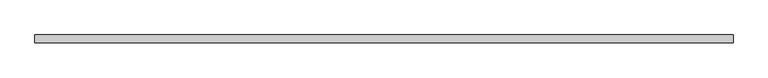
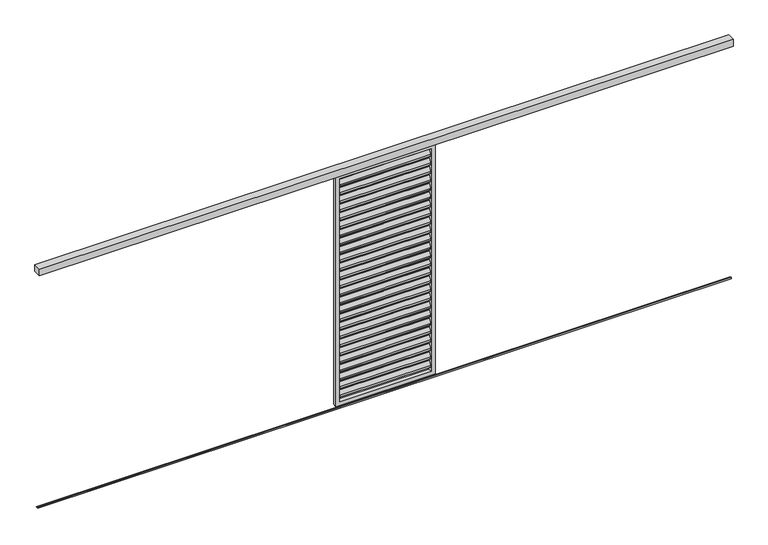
"""IFC4 building model written with IfcOpenShell, lengths in millimetres: proxy geometry, Renson_Amani_Loggia_Paro_Aluminium_Sliding : Renson_Amani_Loggia_Paro_Aluminium_Sliding."""

from ifc_helpers import new_model, si_unit, point, frame, frame_2d, origin, place, context, project, spatial, polyline, circle_curve, trimmed, segment, composite_curve, outline, extrude, source, transform, mapped, element, save


def generic_models_8391a76d(model_context):
    return source(origin(), model_context, "Body", "SweptSolid", [
        extrude(outline(polyline([(3500.0, 46.0), (3500.0, -34.0), (-3500.0, -34.0), (-3500.0, 46.0), (3500.0, 46.0)])), frame((0.0, 0.0, 2500.0), z_axis=(0.0, 0.0, 1.0), x_axis=(1.0, 0.0, 0.0)), (0.0, 0.0, 1.0), 70.0),
        extrude(outline(composite_curve([segment(trimmed(circle_curve(frame_2d((12.6675921, 2432.6587719)), 3.0), [point((10.1515804, 2434.292689))], [point((15.6675921, 2432.6587719))], False, "CARTESIAN"), True, "CONTINUOUS"), segment(polyline([(15.6675921, 2432.6587719), (15.6675921, 2414.2979873)]), True, "CONTINUOUS"), segment(trimmed(circle_curve(frame_2d((12.6675921, 2414.2979873)), 3.0), [point((15.6675921, 2414.2979873))], [point((15.1836038, 2412.6640702))], False, "CARTESIAN"), True, "CONTINUOUS"), segment(polyline([(15.1836038, 2412.6640702), (-8.8163962, 2375.707311)]), True, "CONTINUOUS"), segment(trimmed(circle_curve(frame_2d((-11.3324079, 2377.3412281)), 3.0), [point((-8.8163962, 2375.707311))], [point((-14.3324079, 2377.3412281))], False, "CARTESIAN"), True, "CONTINUOUS"), segment(polyline([(-14.3324079, 2377.3412281), (-14.3324079, 2396.5906532), (10.1515804, 2434.292689)]), True, "CONTINUOUS")], self_intersect=False)), frame((-460.0, 0.0, 0.0), z_axis=(1.0, 0.0, 0.0), x_axis=(0.0, 1.0, 0.0)), (0.0, 0.0, 1.0), 920.0),
        extrude(outline(composite_curve([segment(trimmed(circle_curve(frame_2d((12.6675921, 2342.6587719)), 3.0), [point((10.1515804, 2344.292689))], [point((15.6675921, 2342.6587719))], False, "CARTESIAN"), True, "CONTINUOUS"), segment(polyline([(15.6675921, 2342.6587719), (15.6675921, 2324.2979873)]), True, "CONTINUOUS"), segment(trimmed(circle_curve(frame_2d((12.6675921, 2324.2979873)), 3.0), [point((15.6675921, 2324.2979873))], [point((15.1836038, 2322.6640702))], False, "CARTESIAN"), True, "CONTINUOUS"), segment(polyline([(15.1836038, 2322.6640702), (-8.8163962, 2285.707311)]), True, "CONTINUOUS"), segment(trimmed(circle_curve(frame_2d((-11.3324079, 2287.3412281)), 3.0), [point((-8.8163962, 2285.707311))], [point((-14.3324079, 2287.3412281))], False, "CARTESIAN"), True, "CONTINUOUS"), segment(polyline([(-14.3324079, 2287.3412281), (-14.3324079, 2306.5906532), (10.1515804, 2344.292689)]), True, "CONTINUOUS")], self_intersect=False)), frame((-460.0, 0.0, 0.0), z_axis=(1.0, 0.0, 0.0), x_axis=(0.0, 1.0, 0.0)), (0.0, 0.0, 1.0), 920.0),
        extrude(outline(composite_curve([segment(trimmed(circle_curve(frame_2d((12.6675921, 2252.6587719)), 3.0), [point((10.1515804, 2254.292689))], [point((15.6675921, 2252.6587719))], False, "CARTESIAN"), True, "CONTINUOUS"), segment(polyline([(15.6675921, 2252.6587719), (15.6675921, 2234.2979873)]), True, "CONTINUOUS"), segment(trimmed(circle_curve(frame_2d((12.6675921, 2234.2979873)), 3.0), [point((15.6675921, 2234.2979873))], [point((15.1836038, 2232.6640702))], False, "CARTESIAN"), True, "CONTINUOUS"), segment(polyline([(15.1836038, 2232.6640702), (-8.8163962, 2195.707311)]), True, "CONTINUOUS"), segment(trimmed(circle_curve(frame_2d((-11.3324079, 2197.3412281)), 3.0), [point((-8.8163962, 2195.707311))], [point((-14.3324079, 2197.3412281))], False, "CARTESIAN"), True, "CONTINUOUS"), segment(polyline([(-14.3324079, 2197.3412281), (-14.3324079, 2216.5906532), (10.1515804, 2254.292689)]), True, "CONTINUOUS")], self_intersect=False)), frame((-460.0, 0.0, 0.0), z_axis=(1.0, 0.0, 0.0), x_axis=(0.0, 1.0, 0.0)), (0.0, 0.0, 1.0), 920.0),
        extrude(outline(composite_curve([segment(trimmed(circle_curve(frame_2d((12.6675921, 2162.6587719)), 3.0), [point((10.1515804, 2164.292689))], [point((15.6675921, 2162.6587719))], False, "CARTESIAN"), True, "CONTINUOUS"), segment(polyline([(15.6675921, 2162.6587719), (15.6675921, 2144.2979873)]), True, "CONTINUOUS"), segment(trimmed(circle_curve(frame_2d((12.6675921, 2144.2979873)), 3.0), [point((15.6675921, 2144.2979873))], [point((15.1836038, 2142.6640702))], False, "CARTESIAN"), True, "CONTINUOUS"), segment(polyline([(15.1836038, 2142.6640702), (-8.8163962, 2105.707311)]), True, "CONTINUOUS"), segment(trimmed(circle_curve(frame_2d((-11.3324079, 2107.3412281)), 3.0), [point((-8.8163962, 2105.707311))], [point((-14.3324079, 2107.3412281))], False, "CARTESIAN"), True, "CONTINUOUS"), segment(polyline([(-14.3324079, 2107.3412281), (-14.3324079, 2126.5906532), (10.1515804, 2164.292689)]), True, "CONTINUOUS")], self_intersect=False)), frame((-460.0, 0.0, 0.0), z_axis=(1.0, 0.0, 0.0), x_axis=(0.0, 1.0, 0.0)), (0.0, 0.0, 1.0), 920.0),
        extrude(outline(composite_curve([segment(trimmed(circle_curve(frame_2d((12.6675921, 2072.6587719)), 3.0), [point((10.1515804, 2074.292689))], [point((15.6675921, 2072.6587719))], False, "CARTESIAN"), True, "CONTINUOUS"), segment(polyline([(15.6675921, 2072.6587719), (15.6675921, 2054.2979873)]), True, "CONTINUOUS"), segment(trimmed(circle_curve(frame_2d((12.6675921, 2054.2979873)), 3.0), [point((15.6675921, 2054.2979873))], [point((15.1836038, 2052.6640702))], False, "CARTESIAN"), True, "CONTINUOUS"), segment(polyline([(15.1836038, 2052.6640702), (-8.8163962, 2015.707311)]), True, "CONTINUOUS"), segment(trimmed(circle_curve(frame_2d((-11.3324079, 2017.3412281)), 3.0), [point((-8.8163962, 2015.707311))], [point((-14.3324079, 2017.3412281))], False, "CARTESIAN"), True, "CONTINUOUS"), segment(polyline([(-14.3324079, 2017.3412281), (-14.3324079, 2036.5906532), (10.1515804, 2074.292689)]), True, "CONTINUOUS")], self_intersect=False)), frame((-460.0, 0.0, 0.0), z_axis=(1.0, 0.0, 0.0), x_axis=(0.0, 1.0, 0.0)), (0.0, 0.0, 1.0), 920.0),
        extrude(outline(composite_curve([segment(trimmed(circle_curve(frame_2d((12.6675921, 1982.6587719)), 3.0), [point((10.1515804, 1984.292689))], [point((15.6675921, 1982.6587719))], False, "CARTESIAN"), True, "CONTINUOUS"), segment(polyline([(15.6675921, 1982.6587719), (15.6675921, 1964.2979873)]), True, "CONTINUOUS"), segment(trimmed(circle_curve(frame_2d((12.6675921, 1964.2979873)), 3.0), [point((15.6675921, 1964.2979873))], [point((15.1836038, 1962.6640702))], False, "CARTESIAN"), True, "CONTINUOUS"), segment(polyline([(15.1836038, 1962.6640702), (-8.8163962, 1925.707311)]), True, "CONTINUOUS"), segment(trimmed(circle_curve(frame_2d((-11.3324079, 1927.3412281)), 3.0), [point((-8.8163962, 1925.707311))], [point((-14.3324079, 1927.3412281))], False, "CARTESIAN"), True, "CONTINUOUS"), segment(polyline([(-14.3324079, 1927.3412281), (-14.3324079, 1946.5906532), (10.1515804, 1984.292689)]), True, "CONTINUOUS")], self_intersect=False)), frame((-460.0, 0.0, 0.0), z_axis=(1.0, 0.0, 0.0), x_axis=(0.0, 1.0, 0.0)), (0.0, 0.0, 1.0), 920.0),
        extrude(outline(composite_curve([segment(trimmed(circle_curve(frame_2d((12.6675921, 1892.6587719)), 3.0), [point((10.1515804, 1894.292689))], [point((15.6675921, 1892.6587719))], False, "CARTESIAN"), True, "CONTINUOUS"), segment(polyline([(15.6675921, 1892.6587719), (15.6675921, 1874.2979873)]), True, "CONTINUOUS"), segment(trimmed(circle_curve(frame_2d((12.6675921, 1874.2979873)), 3.0), [point((15.6675921, 1874.2979873))], [point((15.1836038, 1872.6640702))], False, "CARTESIAN"), True, "CONTINUOUS"), segment(polyline([(15.1836038, 1872.6640702), (-8.8163962, 1835.707311)]), True, "CONTINUOUS"), segment(trimmed(circle_curve(frame_2d((-11.3324079, 1837.3412281)), 3.0), [point((-8.8163962, 1835.707311))], [point((-14.3324079, 1837.3412281))], False, "CARTESIAN"), True, "CONTINUOUS"), segment(polyline([(-14.3324079, 1837.3412281), (-14.3324079, 1856.5906532), (10.1515804, 1894.292689)]), True, "CONTINUOUS")], self_intersect=False)), frame((-460.0, 0.0, 0.0), z_axis=(1.0, 0.0, 0.0), x_axis=(0.0, 1.0, 0.0)), (0.0, 0.0, 1.0), 920.0),
        extrude(outline(composite_curve([segment(trimmed(circle_curve(frame_2d((12.6675921, 1802.6587719)), 3.0), [point((10.1515804, 1804.292689))], [point((15.6675921, 1802.6587719))], False, "CARTESIAN"), True, "CONTINUOUS"), segment(polyline([(15.6675921, 1802.6587719), (15.6675921, 1784.2979873)]), True, "CONTINUOUS"), segment(trimmed(circle_curve(frame_2d((12.6675921, 1784.2979873)), 3.0), [point((15.6675921, 1784.2979873))], [point((15.1836038, 1782.6640702))], False, "CARTESIAN"), True, "CONTINUOUS"), segment(polyline([(15.1836038, 1782.6640702), (-8.8163962, 1745.707311)]), True, "CONTINUOUS"), segment(trimmed(circle_curve(frame_2d((-11.3324079, 1747.3412281)), 3.0), [point((-8.8163962, 1745.707311))], [point((-14.3324079, 1747.3412281))], False, "CARTESIAN"), True, "CONTINUOUS"), segment(polyline([(-14.3324079, 1747.3412281), (-14.3324079, 1766.5906532), (10.1515804, 1804.292689)]), True, "CONTINUOUS")], self_intersect=False)), frame((-460.0, 0.0, 0.0), z_axis=(1.0, 0.0, 0.0), x_axis=(0.0, 1.0, 0.0)), (0.0, 0.0, 1.0), 920.0),
        extrude(outline(composite_curve([segment(trimmed(circle_curve(frame_2d((12.6675921, 1712.6587719)), 3.0), [point((10.1515804, 1714.292689))], [point((15.6675921, 1712.6587719))], False, "CARTESIAN"), True, "CONTINUOUS"), segment(polyline([(15.6675921, 1712.6587719), (15.6675921, 1694.2979873)]), True, "CONTINUOUS"), segment(trimmed(circle_curve(frame_2d((12.6675921, 1694.2979873)), 3.0), [point((15.6675921, 1694.2979873))], [point((15.1836038, 1692.6640702))], False, "CARTESIAN"), True, "CONTINUOUS"), segment(polyline([(15.1836038, 1692.6640702), (-8.8163962, 1655.707311)]), True, "CONTINUOUS"), segment(trimmed(circle_curve(frame_2d((-11.3324079, 1657.3412281)), 3.0), [point((-8.8163962, 1655.707311))], [point((-14.3324079, 1657.3412281))], False, "CARTESIAN"), True, "CONTINUOUS"), segment(polyline([(-14.3324079, 1657.3412281), (-14.3324079, 1676.5906532), (10.1515804, 1714.292689)]), True, "CONTINUOUS")], self_intersect=False)), frame((-460.0, 0.0, 0.0), z_axis=(1.0, 0.0, 0.0), x_axis=(0.0, 1.0, 0.0)), (0.0, 0.0, 1.0), 920.0),
        extrude(outline(composite_curve([segment(trimmed(circle_curve(frame_2d((12.6675921, 1622.6587719)), 3.0), [point((10.1515804, 1624.292689))], [point((15.6675921, 1622.6587719))], False, "CARTESIAN"), True, "CONTINUOUS"), segment(polyline([(15.6675921, 1622.6587719), (15.6675921, 1604.2979873)]), True, "CONTINUOUS"), segment(trimmed(circle_curve(frame_2d((12.6675921, 1604.2979873)), 3.0), [point((15.6675921, 1604.2979873))], [point((15.1836038, 1602.6640702))], False, "CARTESIAN"), True, "CONTINUOUS"), segment(polyline([(15.1836038, 1602.6640702), (-8.8163962, 1565.707311)]), True, "CONTINUOUS"), segment(trimmed(circle_curve(frame_2d((-11.3324079, 1567.3412281)), 3.0), [point((-8.8163962, 1565.707311))], [point((-14.3324079, 1567.3412281))], False, "CARTESIAN"), True, "CONTINUOUS"), segment(polyline([(-14.3324079, 1567.3412281), (-14.3324079, 1586.5906532), (10.1515804, 1624.292689)]), True, "CONTINUOUS")], self_intersect=False)), frame((-460.0, 0.0, 0.0), z_axis=(1.0, 0.0, 0.0), x_axis=(0.0, 1.0, 0.0)), (0.0, 0.0, 1.0), 920.0),
        extrude(outline(composite_curve([segment(trimmed(circle_curve(frame_2d((12.6675921, 1532.6587719)), 3.0), [point((10.1515804, 1534.292689))], [point((15.6675921, 1532.6587719))], False, "CARTESIAN"), True, "CONTINUOUS"), segment(polyline([(15.6675921, 1532.6587719), (15.6675921, 1514.2979873)]), True, "CONTINUOUS"), segment(trimmed(circle_curve(frame_2d((12.6675921, 1514.2979873)), 3.0), [point((15.6675921, 1514.2979873))], [point((15.1836038, 1512.6640702))], False, "CARTESIAN"), True, "CONTINUOUS"), segment(polyline([(15.1836038, 1512.6640702), (-8.8163962, 1475.707311)]), True, "CONTINUOUS"), segment(trimmed(circle_curve(frame_2d((-11.3324079, 1477.3412281)), 3.0), [point((-8.8163962, 1475.707311))], [point((-14.3324079, 1477.3412281))], False, "CARTESIAN"), True, "CONTINUOUS"), segment(polyline([(-14.3324079, 1477.3412281), (-14.3324079, 1496.5906532), (10.1515804, 1534.292689)]), True, "CONTINUOUS")], self_intersect=False)), frame((-460.0, 0.0, 0.0), z_axis=(1.0, 0.0, 0.0), x_axis=(0.0, 1.0, 0.0)), (0.0, 0.0, 1.0), 920.0),
        extrude(outline(composite_curve([segment(trimmed(circle_curve(frame_2d((12.6675921, 1442.6587719)), 3.0), [point((10.1515804, 1444.292689))], [point((15.6675921, 1442.6587719))], False, "CARTESIAN"), True, "CONTINUOUS"), segment(polyline([(15.6675921, 1442.6587719), (15.6675921, 1424.2979873)]), True, "CONTINUOUS"), segment(trimmed(circle_curve(frame_2d((12.6675921, 1424.2979873)), 3.0), [point((15.6675921, 1424.2979873))], [point((15.1836038, 1422.6640702))], False, "CARTESIAN"), True, "CONTINUOUS"), segment(polyline([(15.1836038, 1422.6640702), (-8.8163962, 1385.707311)]), True, "CONTINUOUS"), segment(trimmed(circle_curve(frame_2d((-11.3324079, 1387.3412281)), 3.0), [point((-8.8163962, 1385.707311))], [point((-14.3324079, 1387.3412281))], False, "CARTESIAN"), True, "CONTINUOUS"), segment(polyline([(-14.3324079, 1387.3412281), (-14.3324079, 1406.5906532), (10.1515804, 1444.292689)]), True, "CONTINUOUS")], self_intersect=False)), frame((-460.0, 0.0, 0.0), z_axis=(1.0, 0.0, 0.0), x_axis=(0.0, 1.0, 0.0)), (0.0, 0.0, 1.0), 920.0),
        extrude(outline(composite_curve([segment(trimmed(circle_curve(frame_2d((12.6675921, 1352.6587719)), 3.0), [point((10.1515804, 1354.292689))], [point((15.6675921, 1352.6587719))], False, "CARTESIAN"), True, "CONTINUOUS"), segment(polyline([(15.6675921, 1352.6587719), (15.6675921, 1334.2979873)]), True, "CONTINUOUS"), segment(trimmed(circle_curve(frame_2d((12.6675921, 1334.2979873)), 3.0), [point((15.6675921, 1334.2979873))], [point((15.1836038, 1332.6640702))], False, "CARTESIAN"), True, "CONTINUOUS"), segment(polyline([(15.1836038, 1332.6640702), (-8.8163962, 1295.707311)]), True, "CONTINUOUS"), segment(trimmed(circle_curve(frame_2d((-11.3324079, 1297.3412281)), 3.0), [point((-8.8163962, 1295.707311))], [point((-14.3324079, 1297.3412281))], False, "CARTESIAN"), True, "CONTINUOUS"), segment(polyline([(-14.3324079, 1297.3412281), (-14.3324079, 1316.5906532), (10.1515804, 1354.292689)]), True, "CONTINUOUS")], self_intersect=False)), frame((-460.0, 0.0, 0.0), z_axis=(1.0, 0.0, 0.0), x_axis=(0.0, 1.0, 0.0)), (0.0, 0.0, 1.0), 920.0),
        extrude(outline(composite_curve([segment(trimmed(circle_curve(frame_2d((12.6675921, 1262.6587719)), 3.0), [point((10.1515804, 1264.292689))], [point((15.6675921, 1262.6587719))], False, "CARTESIAN"), True, "CONTINUOUS"), segment(polyline([(15.6675921, 1262.6587719), (15.6675921, 1244.2979873)]), True, "CONTINUOUS"), segment(trimmed(circle_curve(frame_2d((12.6675921, 1244.2979873)), 3.0), [point((15.6675921, 1244.2979873))], [point((15.1836038, 1242.6640702))], False, "CARTESIAN"), True, "CONTINUOUS"), segment(polyline([(15.1836038, 1242.6640702), (-8.8163962, 1205.707311)]), True, "CONTINUOUS"), segment(trimmed(circle_curve(frame_2d((-11.3324079, 1207.3412281)), 3.0), [point((-8.8163962, 1205.707311))], [point((-14.3324079, 1207.3412281))], False, "CARTESIAN"), True, "CONTINUOUS"), segment(polyline([(-14.3324079, 1207.3412281), (-14.3324079, 1226.5906532), (10.1515804, 1264.292689)]), True, "CONTINUOUS")], self_intersect=False)), frame((-460.0, 0.0, 0.0), z_axis=(1.0, 0.0, 0.0), x_axis=(0.0, 1.0, 0.0)), (0.0, 0.0, 1.0), 920.0),
        extrude(outline(composite_curve([segment(trimmed(circle_curve(frame_2d((12.6675921, 1172.6587719)), 3.0), [point((10.1515804, 1174.292689))], [point((15.6675921, 1172.6587719))], False, "CARTESIAN"), True, "CONTINUOUS"), segment(polyline([(15.6675921, 1172.6587719), (15.6675921, 1154.2979873)]), True, "CONTINUOUS"), segment(trimmed(circle_curve(frame_2d((12.6675921, 1154.2979873)), 3.0), [point((15.6675921, 1154.2979873))], [point((15.1836038, 1152.6640702))], False, "CARTESIAN"), True, "CONTINUOUS"), segment(polyline([(15.1836038, 1152.6640702), (-8.8163962, 1115.707311)]), True, "CONTINUOUS"), segment(trimmed(circle_curve(frame_2d((-11.3324079, 1117.3412281)), 3.0), [point((-8.8163962, 1115.707311))], [point((-14.3324079, 1117.3412281))], False, "CARTESIAN"), True, "CONTINUOUS"), segment(polyline([(-14.3324079, 1117.3412281), (-14.3324079, 1136.5906532), (10.1515804, 1174.292689)]), True, "CONTINUOUS")], self_intersect=False)), frame((-460.0, 0.0, 0.0), z_axis=(1.0, 0.0, 0.0), x_axis=(0.0, 1.0, 0.0)), (0.0, 0.0, 1.0), 920.0),
        extrude(outline(composite_curve([segment(trimmed(circle_curve(frame_2d((12.6675921, 1082.6587719)), 3.0), [point((10.1515804, 1084.292689))], [point((15.6675921, 1082.6587719))], False, "CARTESIAN"), True, "CONTINUOUS"), segment(polyline([(15.6675921, 1082.6587719), (15.6675921, 1064.2979873)]), True, "CONTINUOUS"), segment(trimmed(circle_curve(frame_2d((12.6675921, 1064.2979873)), 3.0), [point((15.6675921, 1064.2979873))], [point((15.1836038, 1062.6640702))], False, "CARTESIAN"), True, "CONTINUOUS"), segment(polyline([(15.1836038, 1062.6640702), (-8.8163962, 1025.707311)]), True, "CONTINUOUS"), segment(trimmed(circle_curve(frame_2d((-11.3324079, 1027.3412281)), 3.0), [point((-8.8163962, 1025.707311))], [point((-14.3324079, 1027.3412281))], False, "CARTESIAN"), True, "CONTINUOUS"), segment(polyline([(-14.3324079, 1027.3412281), (-14.3324079, 1046.5906532), (10.1515804, 1084.292689)]), True, "CONTINUOUS")], self_intersect=False)), frame((-460.0, 0.0, 0.0), z_axis=(1.0, 0.0, 0.0), x_axis=(0.0, 1.0, 0.0)), (0.0, 0.0, 1.0), 920.0),
        extrude(outline(composite_curve([segment(trimmed(circle_curve(frame_2d((12.6675921, 992.6587719)), 3.0), [point((10.1515804, 994.292689))], [point((15.6675921, 992.6587719))], False, "CARTESIAN"), True, "CONTINUOUS"), segment(polyline([(15.6675921, 992.6587719), (15.6675921, 974.2979873)]), True, "CONTINUOUS"), segment(trimmed(circle_curve(frame_2d((12.6675921, 974.2979873)), 3.0), [point((15.6675921, 974.2979873))], [point((15.1836038, 972.6640702))], False, "CARTESIAN"), True, "CONTINUOUS"), segment(polyline([(15.1836038, 972.6640702), (-8.8163962, 935.707311)]), True, "CONTINUOUS"), segment(trimmed(circle_curve(frame_2d((-11.3324079, 937.3412281)), 3.0), [point((-8.8163962, 935.707311))], [point((-14.3324079, 937.3412281))], False, "CARTESIAN"), True, "CONTINUOUS"), segment(polyline([(-14.3324079, 937.3412281), (-14.3324079, 956.5906532), (10.1515804, 994.292689)]), True, "CONTINUOUS")], self_intersect=False)), frame((-460.0, 0.0, 0.0), z_axis=(1.0, 0.0, 0.0), x_axis=(0.0, 1.0, 0.0)), (0.0, 0.0, 1.0), 920.0),
        extrude(outline(composite_curve([segment(trimmed(circle_curve(frame_2d((12.6675921, 902.6587719)), 3.0), [point((10.1515804, 904.292689))], [point((15.6675921, 902.6587719))], False, "CARTESIAN"), True, "CONTINUOUS"), segment(polyline([(15.6675921, 902.6587719), (15.6675921, 884.2979873)]), True, "CONTINUOUS"), segment(trimmed(circle_curve(frame_2d((12.6675921, 884.2979873)), 3.0), [point((15.6675921, 884.2979873))], [point((15.1836038, 882.6640702))], False, "CARTESIAN"), True, "CONTINUOUS"), segment(polyline([(15.1836038, 882.6640702), (-8.8163962, 845.707311)]), True, "CONTINUOUS"), segment(trimmed(circle_curve(frame_2d((-11.3324079, 847.3412281)), 3.0), [point((-8.8163962, 845.707311))], [point((-14.3324079, 847.3412281))], False, "CARTESIAN"), True, "CONTINUOUS"), segment(polyline([(-14.3324079, 847.3412281), (-14.3324079, 866.5906532), (10.1515804, 904.292689)]), True, "CONTINUOUS")], self_intersect=False)), frame((-460.0, 0.0, 0.0), z_axis=(1.0, 0.0, 0.0), x_axis=(0.0, 1.0, 0.0)), (0.0, 0.0, 1.0), 920.0),
        extrude(outline(composite_curve([segment(trimmed(circle_curve(frame_2d((12.6675921, 812.6587719)), 3.0), [point((10.1515804, 814.292689))], [point((15.6675921, 812.6587719))], False, "CARTESIAN"), True, "CONTINUOUS"), segment(polyline([(15.6675921, 812.6587719), (15.6675921, 794.2979873)]), True, "CONTINUOUS"), segment(trimmed(circle_curve(frame_2d((12.6675921, 794.2979873)), 3.0), [point((15.6675921, 794.2979873))], [point((15.1836038, 792.6640702))], False, "CARTESIAN"), True, "CONTINUOUS"), segment(polyline([(15.1836038, 792.6640702), (-8.8163962, 755.707311)]), True, "CONTINUOUS"), segment(trimmed(circle_curve(frame_2d((-11.3324079, 757.3412281)), 3.0), [point((-8.8163962, 755.707311))], [point((-14.3324079, 757.3412281))], False, "CARTESIAN"), True, "CONTINUOUS"), segment(polyline([(-14.3324079, 757.3412281), (-14.3324079, 776.5906532), (10.1515804, 814.292689)]), True, "CONTINUOUS")], self_intersect=False)), frame((-460.0, 0.0, 0.0), z_axis=(1.0, 0.0, 0.0), x_axis=(0.0, 1.0, 0.0)), (0.0, 0.0, 1.0), 920.0),
        extrude(outline(composite_curve([segment(trimmed(circle_curve(frame_2d((12.6675921, 722.6587719)), 3.0), [point((10.1515804, 724.292689))], [point((15.6675921, 722.6587719))], False, "CARTESIAN"), True, "CONTINUOUS"), segment(polyline([(15.6675921, 722.6587719), (15.6675921, 704.2979873)]), True, "CONTINUOUS"), segment(trimmed(circle_curve(frame_2d((12.6675921, 704.2979873)), 3.0), [point((15.6675921, 704.2979873))], [point((15.1836038, 702.6640702))], False, "CARTESIAN"), True, "CONTINUOUS"), segment(polyline([(15.1836038, 702.6640702), (-8.8163962, 665.707311)]), True, "CONTINUOUS"), segment(trimmed(circle_curve(frame_2d((-11.3324079, 667.3412281)), 3.0), [point((-8.8163962, 665.707311))], [point((-14.3324079, 667.3412281))], False, "CARTESIAN"), True, "CONTINUOUS"), segment(polyline([(-14.3324079, 667.3412281), (-14.3324079, 686.5906532), (10.1515804, 724.292689)]), True, "CONTINUOUS")], self_intersect=False)), frame((-460.0, 0.0, 0.0), z_axis=(1.0, 0.0, 0.0), x_axis=(0.0, 1.0, 0.0)), (0.0, 0.0, 1.0), 920.0),
        extrude(outline(composite_curve([segment(trimmed(circle_curve(frame_2d((12.6675921, 632.6587719)), 3.0), [point((10.1515804, 634.292689))], [point((15.6675921, 632.6587719))], False, "CARTESIAN"), True, "CONTINUOUS"), segment(polyline([(15.6675921, 632.6587719), (15.6675921, 614.2979873)]), True, "CONTINUOUS"), segment(trimmed(circle_curve(frame_2d((12.6675921, 614.2979873)), 3.0), [point((15.6675921, 614.2979873))], [point((15.1836038, 612.6640702))], False, "CARTESIAN"), True, "CONTINUOUS"), segment(polyline([(15.1836038, 612.6640702), (-8.8163962, 575.707311)]), True, "CONTINUOUS"), segment(trimmed(circle_curve(frame_2d((-11.3324079, 577.3412281)), 3.0), [point((-8.8163962, 575.707311))], [point((-14.3324079, 577.3412281))], False, "CARTESIAN"), True, "CONTINUOUS"), segment(polyline([(-14.3324079, 577.3412281), (-14.3324079, 596.5906532), (10.1515804, 634.292689)]), True, "CONTINUOUS")], self_intersect=False)), frame((-460.0, 0.0, 0.0), z_axis=(1.0, 0.0, 0.0), x_axis=(0.0, 1.0, 0.0)), (0.0, 0.0, 1.0), 920.0),
        extrude(outline(composite_curve([segment(trimmed(circle_curve(frame_2d((12.6675921, 542.6587719)), 3.0), [point((10.1515804, 544.292689))], [point((15.6675921, 542.6587719))], False, "CARTESIAN"), True, "CONTINUOUS"), segment(polyline([(15.6675921, 542.6587719), (15.6675921, 524.2979873)]), True, "CONTINUOUS"), segment(trimmed(circle_curve(frame_2d((12.6675921, 524.2979873)), 3.0), [point((15.6675921, 524.2979873))], [point((15.1836038, 522.6640702))], False, "CARTESIAN"), True, "CONTINUOUS"), segment(polyline([(15.1836038, 522.6640702), (-8.8163962, 485.707311)]), True, "CONTINUOUS"), segment(trimmed(circle_curve(frame_2d((-11.3324079, 487.3412281)), 3.0), [point((-8.8163962, 485.707311))], [point((-14.3324079, 487.3412281))], False, "CARTESIAN"), True, "CONTINUOUS"), segment(polyline([(-14.3324079, 487.3412281), (-14.3324079, 506.5906532), (10.1515804, 544.292689)]), True, "CONTINUOUS")], self_intersect=False)), frame((-460.0, 0.0, 0.0), z_axis=(1.0, 0.0, 0.0), x_axis=(0.0, 1.0, 0.0)), (0.0, 0.0, 1.0), 920.0),
        extrude(outline(composite_curve([segment(trimmed(circle_curve(frame_2d((12.6675921, 452.6587719)), 3.0), [point((10.1515804, 454.292689))], [point((15.6675921, 452.6587719))], False, "CARTESIAN"), True, "CONTINUOUS"), segment(polyline([(15.6675921, 452.6587719), (15.6675921, 434.2979873)]), True, "CONTINUOUS"), segment(trimmed(circle_curve(frame_2d((12.6675921, 434.2979873)), 3.0), [point((15.6675921, 434.2979873))], [point((15.1836038, 432.6640702))], False, "CARTESIAN"), True, "CONTINUOUS"), segment(polyline([(15.1836038, 432.6640702), (-8.8163962, 395.707311)]), True, "CONTINUOUS"), segment(trimmed(circle_curve(frame_2d((-11.3324079, 397.3412281)), 3.0), [point((-8.8163962, 395.707311))], [point((-14.3324079, 397.3412281))], False, "CARTESIAN"), True, "CONTINUOUS"), segment(polyline([(-14.3324079, 397.3412281), (-14.3324079, 416.5906532), (10.1515804, 454.292689)]), True, "CONTINUOUS")], self_intersect=False)), frame((-460.0, 0.0, 0.0), z_axis=(1.0, 0.0, 0.0), x_axis=(0.0, 1.0, 0.0)), (0.0, 0.0, 1.0), 920.0),
        extrude(outline(composite_curve([segment(trimmed(circle_curve(frame_2d((12.6675921, 362.6587719)), 3.0), [point((10.1515804, 364.292689))], [point((15.6675921, 362.6587719))], False, "CARTESIAN"), True, "CONTINUOUS"), segment(polyline([(15.6675921, 362.6587719), (15.6675921, 344.2979873)]), True, "CONTINUOUS"), segment(trimmed(circle_curve(frame_2d((12.6675921, 344.2979873)), 3.0), [point((15.6675921, 344.2979873))], [point((15.1836038, 342.6640702))], False, "CARTESIAN"), True, "CONTINUOUS"), segment(polyline([(15.1836038, 342.6640702), (-8.8163962, 305.707311)]), True, "CONTINUOUS"), segment(trimmed(circle_curve(frame_2d((-11.3324079, 307.3412281)), 3.0), [point((-8.8163962, 305.707311))], [point((-14.3324079, 307.3412281))], False, "CARTESIAN"), True, "CONTINUOUS"), segment(polyline([(-14.3324079, 307.3412281), (-14.3324079, 326.5906532), (10.1515804, 364.292689)]), True, "CONTINUOUS")], self_intersect=False)), frame((-460.0, 0.0, 0.0), z_axis=(1.0, 0.0, 0.0), x_axis=(0.0, 1.0, 0.0)), (0.0, 0.0, 1.0), 920.0),
        extrude(outline(composite_curve([segment(trimmed(circle_curve(frame_2d((12.6675921, 272.6587719)), 3.0), [point((10.1515804, 274.292689))], [point((15.6675921, 272.6587719))], False, "CARTESIAN"), True, "CONTINUOUS"), segment(polyline([(15.6675921, 272.6587719), (15.6675921, 254.2979873)]), True, "CONTINUOUS"), segment(trimmed(circle_curve(frame_2d((12.6675921, 254.2979873)), 3.0), [point((15.6675921, 254.2979873))], [point((15.1836038, 252.6640702))], False, "CARTESIAN"), True, "CONTINUOUS"), segment(polyline([(15.1836038, 252.6640702), (-8.8163962, 215.707311)]), True, "CONTINUOUS"), segment(trimmed(circle_curve(frame_2d((-11.3324079, 217.3412281)), 3.0), [point((-8.8163962, 215.707311))], [point((-14.3324079, 217.3412281))], False, "CARTESIAN"), True, "CONTINUOUS"), segment(polyline([(-14.3324079, 217.3412281), (-14.3324079, 236.5906532), (10.1515804, 274.292689)]), True, "CONTINUOUS")], self_intersect=False)), frame((-460.0, 0.0, 0.0), z_axis=(1.0, 0.0, 0.0), x_axis=(0.0, 1.0, 0.0)), (0.0, 0.0, 1.0), 920.0),
        extrude(outline(composite_curve([segment(trimmed(circle_curve(frame_2d((12.6675921, 182.6587719)), 3.0), [point((10.1515804, 184.292689))], [point((15.6675921, 182.6587719))], False, "CARTESIAN"), True, "CONTINUOUS"), segment(polyline([(15.6675921, 182.6587719), (15.6675921, 164.2979873)]), True, "CONTINUOUS"), segment(trimmed(circle_curve(frame_2d((12.6675921, 164.2979873)), 3.0), [point((15.6675921, 164.2979873))], [point((15.1836038, 162.6640702))], False, "CARTESIAN"), True, "CONTINUOUS"), segment(polyline([(15.1836038, 162.6640702), (-8.8163962, 125.707311)]), True, "CONTINUOUS"), segment(trimmed(circle_curve(frame_2d((-11.3324079, 127.3412281)), 3.0), [point((-8.8163962, 125.707311))], [point((-14.3324079, 127.3412281))], False, "CARTESIAN"), True, "CONTINUOUS"), segment(polyline([(-14.3324079, 127.3412281), (-14.3324079, 146.5906532), (10.1515804, 184.292689)]), True, "CONTINUOUS")], self_intersect=False)), frame((-460.0, 0.0, 0.0), z_axis=(1.0, 0.0, 0.0), x_axis=(0.0, 1.0, 0.0)), (0.0, 0.0, 1.0), 920.0),
        extrude(outline(polyline([(-6.0, 15.0), (-3.0, 15.0), (-3.0, 3.0), (20.0, 3.0), (20.0, 0.0), (-6.0, 0.0), (-6.0, 15.0)])), frame((-3500.0, 0.0, 0.0), z_axis=(1.0, 0.0, 0.0), x_axis=(0.0, 1.0, 0.0)), (0.0, 0.0, 1.0), 7000.0),
        extrude(outline(polyline([(2500.0, -500.0), (45.0, -500.0), (45.0, 500.0), (2500.0, 500.0), (2500.0, -500.0)]), holes=[polyline([(2460.0, 460.0), (85.0, 460.0), (85.0, -460.0), (2460.0, -460.0), (2460.0, 460.0)])]), frame((0.0, -20.0, 0.0), z_axis=(0.0, 1.0, 0.0), x_axis=(0.0, 0.0, 1.0)), (0.0, 0.0, 1.0), 40.0),
    ])


if __name__ == "__main__":
    model = new_model("IFC4")
    model_context = context("Model", 3, world=origin())
    ifc_project = project(units=[si_unit("LENGTHUNIT", "METRE", prefix="MILLI")], contexts=[model_context])
    site = spatial("IfcSite", under=ifc_project)
    building = spatial("IfcBuilding", under=site)
    placement = place(None, origin())
    generic_models_shape = generic_models_8391a76d(model_context)
    element("IfcBuildingElementProxy", 1, Name="Renson_Amani_Loggia_Paro_Aluminium_Sliding : Renson_Amani_Loggia_Paro_Aluminium_Sliding", ObjectType="Renson_Amani_Loggia_Paro_Aluminium_Sliding : Renson_Amani_Loggia_Paro_Aluminium_Sliding", at=placement, inside=building, context=model_context, shape_type="MappedRepresentation", body=[
        mapped(generic_models_shape, transform((0.0, 0.0, 0.0), x_axis=(1.0, 0.0, 0.0), y_axis=(0.0, 1.0, 0.0), z_axis=(0.0, 0.0, 1.0))),
    ])
    save(model, "model.ifc")
